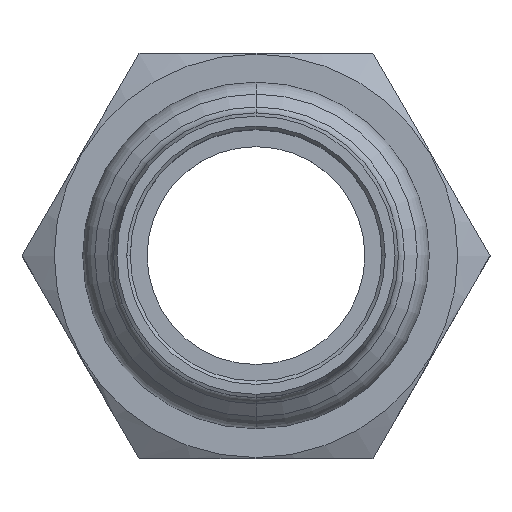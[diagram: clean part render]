
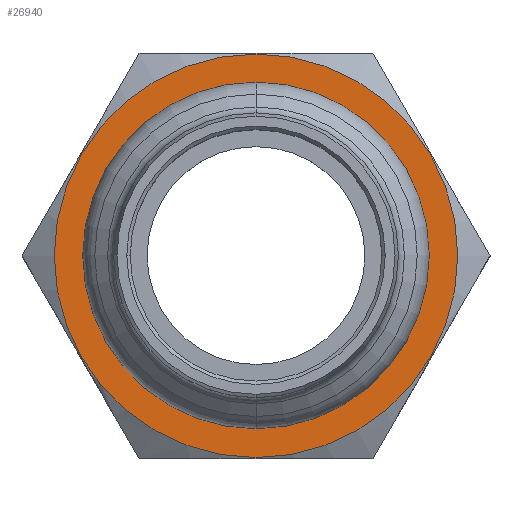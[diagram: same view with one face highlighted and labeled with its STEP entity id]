
A CAD part, top view. The second image highlights one B-rep face of the part: STEP entity #26940.
In plain terms, the highlighted planar face has unit normal (0, 0, 1) as drawn and (1, 0, 0) by its records, which use the part's own axes.
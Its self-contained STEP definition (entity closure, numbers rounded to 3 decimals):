
#23820=CARTESIAN_POINT('',(-53.271,119.293,0.));
#23830=VERTEX_POINT('',#23820);
#26550=CARTESIAN_POINT('',(-53.271,83.447,
0.));
#26560=VERTEX_POINT('',#26550);
#26590=CARTESIAN_POINT('',(-53.271,101.37,0.));
#26600=DIRECTION('',(-1.,0.,0.));
#26610=DIRECTION('',(0.,-1.,0.));
#26620=AXIS2_PLACEMENT_3D('',#26590,#26600,#26610);
#26630=CIRCLE('',#26620,17.923);
#26640=EDGE_CURVE('',#23830,#26560,#26630,.T.);
#26690=CARTESIAN_POINT('',(-53.271,92.409,0.));
#26700=DIRECTION('',(-1.,0.,-0.));
#26710=DIRECTION('',(0.,1.,0.));
#26720=AXIS2_PLACEMENT_3D('',#26690,#26700,#26710);
#26730=PLANE('',#26720);
#26740=EDGE_CURVE('',#26560,#23830,#26630,.T.);
#26750=ORIENTED_EDGE('',*,*,#26740,.F.);
#26760=ORIENTED_EDGE('',*,*,#26640,.F.);
#26770=EDGE_LOOP('',(#26760,#26750));
#26780=FACE_OUTER_BOUND('',#26770,.T.);
#26790=CARTESIAN_POINT('',(-53.271,101.37,
0.));
#26800=DIRECTION('',(1.,0.,0.));
#26810=DIRECTION('',(0.,-1.,0.));
#26820=AXIS2_PLACEMENT_3D('',#26790,#26800,#26810);
#26830=CIRCLE('',#26820,14.677);
#26840=CARTESIAN_POINT('',(-53.271,86.693,
0.));
#26850=VERTEX_POINT('',#26840);
#26860=CARTESIAN_POINT('',(-53.271,116.047,
0.));
#26870=VERTEX_POINT('',#26860);
#26880=EDGE_CURVE('',#26850,#26870,#26830,.T.);
#26890=ORIENTED_EDGE('',*,*,#26880,.F.);
#26900=EDGE_CURVE('',#26870,#26850,#26830,.T.);
#26910=ORIENTED_EDGE('',*,*,#26900,.F.);
#26920=EDGE_LOOP('',(#26910,#26890));
#26930=FACE_BOUND('',#26920,.T.);
#26940=ADVANCED_FACE('',(#26780,#26930),#26730,.F.);
